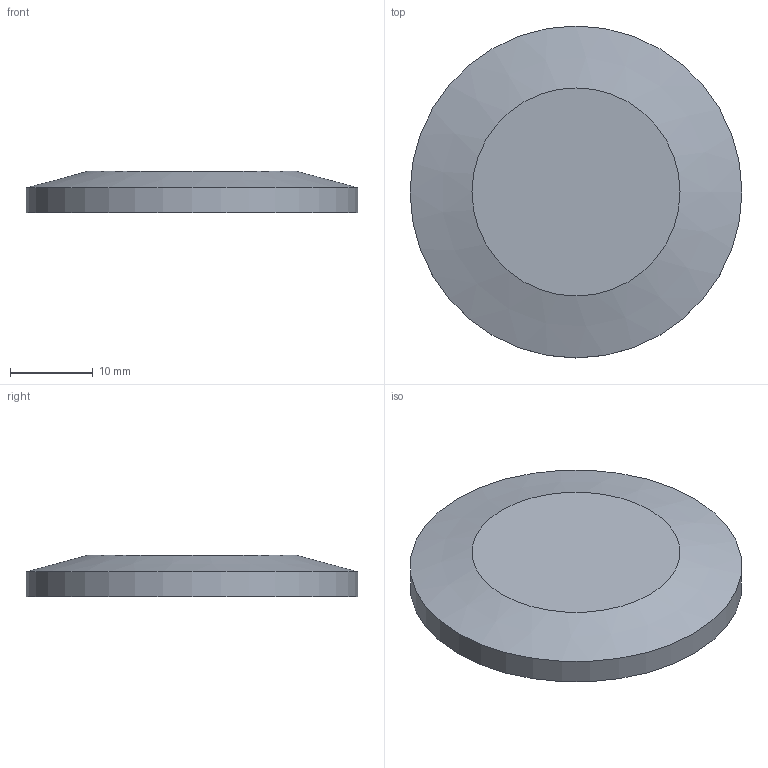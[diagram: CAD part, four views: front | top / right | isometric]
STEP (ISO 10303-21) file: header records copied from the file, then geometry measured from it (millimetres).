
FILE_DESCRIPTION( ( 'Unknown' ), '1' );
FILE_NAME( 'X:/Daten ( aktueller Bestand )/Projekte und Zeichnungen/Solid Edge/2 Bauteile KF/Alu/Blindflansch Alu/1404.stp', 'Unknown', ( 'Unknown' ), ( 'Unknown' ), 'XStep 1.0', 'Unknown', ' ' );
FILE_SCHEMA( ( 'automotive_design' ) );
Length unit declared in the file: millimetre
Products named in the file (1): 1
Bounding box: 40 x 40 x 5 mm (x, y, z)
Volume: 4876.1 mm3; surface area: 3277.7 mm2
Topology: 1 solids, 1 shells, 8 faces, 11 edges, 7 vertices
Faces by surface type: plane 4, cylinder 3, cone 1
Full cylindrical faces by diameter (mm): 19.7 x1, 26.2 x1, 40 x1
Entity records: 234 total; most frequent: DIRECTION 32, CARTESIAN_POINT 23, AXIS2_PLACEMENT_3D 16, EDGE_LOOP 14, ORIENTED_EDGE 14, FACE_OUTER_BOUND 11, STYLED_ITEM 8, PRESENTATION_STYLE_ASSIGNMENT 8
